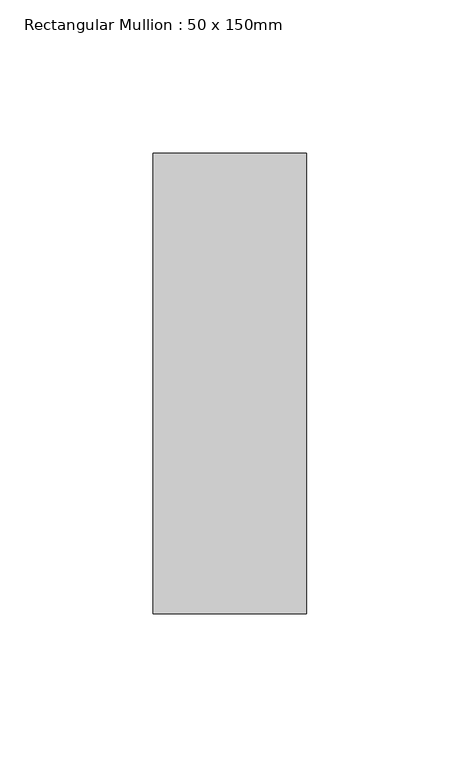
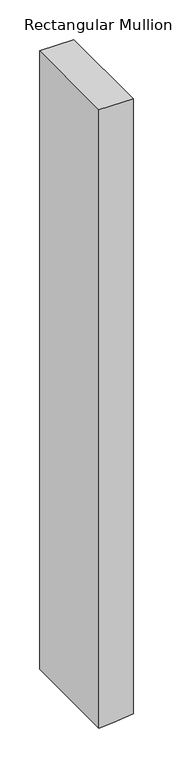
"""IFC4 building model written with IfcOpenShell, lengths in millimetres: member geometry, Rectangular Mullion : 50 x 150mm."""

from ifc_helpers import new_model, si_unit, frame, origin, place, context, project, spatial, polyline, outline, extrude, source, transform, mapped, element, save


def rectangular_mullion_50_x_150mm_7aeb11a0(model_context):
    return source(origin(), model_context, "Body", "SweptSolid", [
        extrude(outline(polyline([(0.0, 25.0), (0.0, -25.0), (-953.4395354, -25.0), (-951.4287683, -5.0022633), (-948.4120487, 25.0), (0.0, 25.0)])), frame((0.0, -75.0, 0.0), z_axis=(0.0, 1.0, 0.0), x_axis=(0.0, 0.0, 1.0)), (0.0, 0.0, 1.0), 150.0),
    ])


if __name__ == "__main__":
    model = new_model("IFC4")
    model_context = context("Model", 3, world=origin())
    ifc_project = project(units=[si_unit("LENGTHUNIT", "METRE", prefix="MILLI")], contexts=[model_context])
    site = spatial("IfcSite", under=ifc_project)
    building = spatial("IfcBuilding", under=site)
    placement = place(None, origin())
    rectangular_mullion_50_x_150mm_shape = rectangular_mullion_50_x_150mm_7aeb11a0(model_context)
    element("IfcMember", 1, ObjectType="Rectangular Mullion : 50 x 150mm", at=placement, inside=building, context=model_context, shape_type="MappedRepresentation", body=[
        mapped(rectangular_mullion_50_x_150mm_shape, transform((0.0, 0.0, 0.0), x_axis=(1.0, 0.0, 0.0), y_axis=(0.0, 1.0, 0.0), z_axis=(0.0, 0.0, 1.0))),
    ])
    save(model, "model.ifc")
